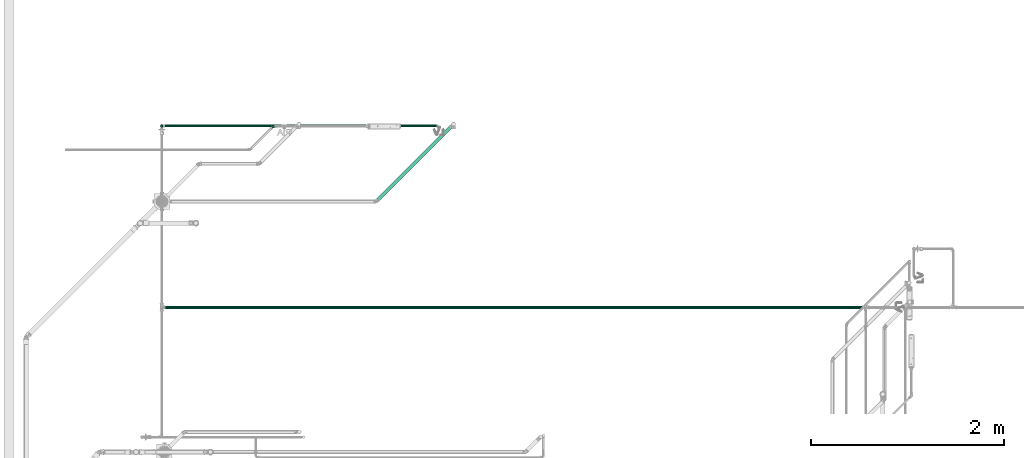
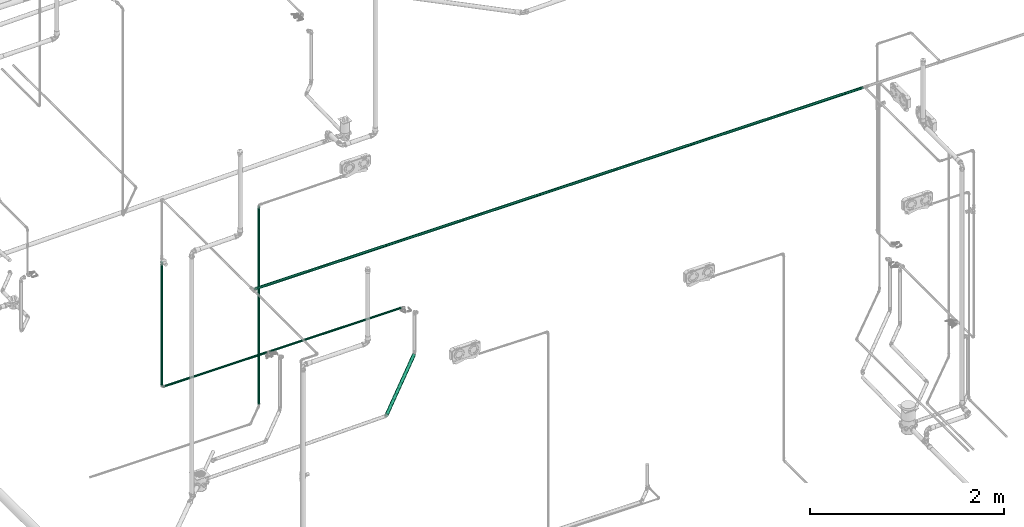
# One storey, part 6 of 589: 6 flow segments.
"""IFC2X3 building model written with IfcOpenShell, lengths in millimetres."""

from ifc_helpers import new_model, entity, si_unit, converted_unit, derived_unit, direction, frame, frame_2d, origin, origin_2d_with_axis, place, context, subcontext, project, spatial, circle, extrude, type_object, element, save


model = new_model("IFC2X3")

# Units and contexts
model_context = context("Model", 3, precision=0.01, world=origin(), true_north=direction((6.123031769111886e-17, 1.0)))
body_context = subcontext(model_context, "Body", "Model", "MODEL_VIEW")
ifc_project = project(units=[si_unit("LENGTHUNIT", "METRE", prefix="MILLI"), si_unit("AREAUNIT", "SQUARE_METRE"), si_unit("VOLUMEUNIT", "CUBIC_METRE"), converted_unit("PLANEANGLEUNIT", "DEGREE", entity("IfcRatioMeasure", 0.017453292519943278), si_unit("PLANEANGLEUNIT", "RADIAN"), dimensions=[0, 0, 0, 0, 0, 0, 0]), si_unit("MASSUNIT", "GRAM", prefix="KILO"), derived_unit("MASSDENSITYUNIT", [(si_unit("MASSUNIT", "GRAM", prefix="KILO"), 1), (si_unit("LENGTHUNIT", "METRE"), -3)]), derived_unit("IONCONCENTRATIONUNIT", [(si_unit("MASSUNIT", "GRAM", prefix="KILO"), 1), (si_unit("LENGTHUNIT", "METRE"), -3)]), derived_unit("MOMENTOFINERTIAUNIT", [(si_unit("LENGTHUNIT", "METRE"), 4)]), si_unit("TIMEUNIT", "SECOND"), si_unit("FREQUENCYUNIT", "HERTZ"), si_unit("THERMODYNAMICTEMPERATUREUNIT", "DEGREE_CELSIUS"), derived_unit("THERMALTRANSMITTANCEUNIT", [(si_unit("MASSUNIT", "GRAM", prefix="KILO"), 1), (si_unit("THERMODYNAMICTEMPERATUREUNIT", "KELVIN"), -1), (si_unit("TIMEUNIT", "SECOND"), -3)]), derived_unit("THERMALCONDUCTANCEUNIT", [(si_unit("MASSUNIT", "GRAM", prefix="KILO"), 1), (si_unit("THERMODYNAMICTEMPERATUREUNIT", "KELVIN"), -1), (si_unit("TIMEUNIT", "SECOND"), -3), (si_unit("LENGTHUNIT", "METRE"), 1)]), derived_unit("VOLUMETRICFLOWRATEUNIT", [(si_unit("LENGTHUNIT", "METRE"), 3), (si_unit("TIMEUNIT", "SECOND"), -1)]), derived_unit("MASSFLOWRATEUNIT", [(si_unit("MASSUNIT", "GRAM", prefix="KILO"), 1), (si_unit("TIMEUNIT", "SECOND"), -1)]), derived_unit("ROTATIONALFREQUENCYUNIT", [(si_unit("TIMEUNIT", "SECOND"), -1)]), si_unit("ELECTRICCURRENTUNIT", "AMPERE"), si_unit("ELECTRICVOLTAGEUNIT", "VOLT"), si_unit("POWERUNIT", "WATT"), si_unit("FORCEUNIT", "NEWTON", prefix="KILO"), si_unit("ILLUMINANCEUNIT", "LUX"), si_unit("LUMINOUSFLUXUNIT", "LUMEN"), si_unit("LUMINOUSINTENSITYUNIT", "CANDELA"), derived_unit("USERDEFINED", [(si_unit("MASSUNIT", "GRAM", prefix="KILO"), -1), (si_unit("LENGTHUNIT", "METRE"), -2), (si_unit("TIMEUNIT", "SECOND"), 3), (si_unit("LUMINOUSFLUXUNIT", "LUMEN"), 1)]), derived_unit("USERDEFINED", [(si_unit("MASSUNIT", "GRAM", prefix="KILO"), 1), (si_unit("TIMEUNIT", "SECOND"), -3), (si_unit("LENGTHUNIT", "METRE"), 3), (si_unit("ELECTRICCURRENTUNIT", "AMPERE"), -2)]), derived_unit("SOUNDPOWERUNIT", [(si_unit("MASSUNIT", "GRAM", prefix="KILO"), 1), (si_unit("TIMEUNIT", "SECOND"), -3), (si_unit("LENGTHUNIT", "METRE"), 2)]), derived_unit("SOUNDPRESSUREUNIT", [(si_unit("MASSUNIT", "GRAM", prefix="KILO"), 1), (si_unit("LENGTHUNIT", "METRE"), -1), (si_unit("TIMEUNIT", "SECOND"), -2)]), derived_unit("LINEARVELOCITYUNIT", [(si_unit("LENGTHUNIT", "METRE"), 1), (si_unit("TIMEUNIT", "SECOND"), -1)]), si_unit("PRESSUREUNIT", "PASCAL"), derived_unit("USERDEFINED", [(si_unit("MASSUNIT", "GRAM", prefix="KILO"), 1), (si_unit("LENGTHUNIT", "METRE"), -2), (si_unit("TIMEUNIT", "SECOND"), -2)]), derived_unit("LINEARFORCEUNIT", [(si_unit("MASSUNIT", "GRAM", prefix="KILO"), 1), (si_unit("TIMEUNIT", "SECOND"), -2)]), derived_unit("PLANARFORCEUNIT", [(si_unit("MASSUNIT", "GRAM", prefix="KILO"), 1), (si_unit("LENGTHUNIT", "METRE"), -1), (si_unit("TIMEUNIT", "SECOND"), -2)]), derived_unit("SPECIFICHEATCAPACITYUNIT", [(si_unit("THERMODYNAMICTEMPERATUREUNIT", "KELVIN"), -1), (si_unit("LENGTHUNIT", "METRE"), 2), (si_unit("TIMEUNIT", "SECOND"), -2)]), derived_unit("HEATINGVALUEUNIT", [(si_unit("LENGTHUNIT", "METRE"), 2), (si_unit("TIMEUNIT", "SECOND"), -2)]), derived_unit("VAPORPERMEABILITYUNIT", [(si_unit("LENGTHUNIT", "METRE"), -1), (si_unit("TIMEUNIT", "SECOND"), 1)]), derived_unit("DYNAMICVISCOSITYUNIT", [(si_unit("MASSUNIT", "GRAM", prefix="KILO"), 1), (si_unit("TIMEUNIT", "SECOND"), -1), (si_unit("LENGTHUNIT", "METRE"), -1)]), derived_unit("THERMALEXPANSIONCOEFFICIENTUNIT", [(si_unit("THERMODYNAMICTEMPERATUREUNIT", "KELVIN"), -1)]), derived_unit("MODULUSOFELASTICITYUNIT", [(si_unit("MASSUNIT", "GRAM", prefix="KILO"), 1), (si_unit("LENGTHUNIT", "METRE"), -1), (si_unit("TIMEUNIT", "SECOND"), -2)]), derived_unit("ISOTHERMALMOISTURECAPACITYUNIT", [(si_unit("LENGTHUNIT", "METRE"), 3), (si_unit("MASSUNIT", "GRAM", prefix="KILO"), -1)]), derived_unit("MOISTUREDIFFUSIVITYUNIT", [(si_unit("TIMEUNIT", "SECOND"), -1), (si_unit("LENGTHUNIT", "METRE"), 2)])], contexts=[model_context])

# Site, building, storey
site_placement = place(None, origin())
site = spatial("IfcSite", under=ifc_project, at=site_placement, Name="Default", CompositionType="ELEMENT")
building_placement = place(site_placement, origin())
building = spatial("IfcBuilding", under=site, at=building_placement, CompositionType="ELEMENT")
storey_placement = place(building_placement, frame((0.0, 0.0, 100.0)))
storey = spatial("IfcBuildingStorey", under=building, at=storey_placement, Name="TÉRREO", CompositionType="ELEMENT", Elevation=100.0)

# Flow segments
pipe_segment_type_1 = type_object("IfcPipeSegmentType", Name="Tipos de tubos:PVC Esgoto Série Normal", PredefinedType="NOTDEFINED")
flow_segment_1_placement = place(storey_placement, origin())
element("IfcFlowSegment", 1, at=flow_segment_1_placement, inside=storey, type_object=pipe_segment_type_1, Name="Tipos de tubos:PVC Esgoto Série Normal", ObjectType="Tipos de tubos:PVC Esgoto Série Normal", context=body_context, shape_type="SweptSolid", body=[
    extrude(circle(Radius=20.0, at=frame_2d((7.656261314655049e-13, -4.4867841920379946e-14), x_axis=(1.0, 0.0))), frame((-5130.256177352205, -5096.200137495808, -66.8634224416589), z_axis=(0.7068956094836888, 0.7070369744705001, 0.01993273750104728), x_axis=(-0.7071774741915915, 0.7070360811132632, 0.0)), (0.0, 0.0, 1.0), 1087.877473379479),
])
pipe_segment_type_2 = type_object("IfcPipeSegmentType", Name="Tipos de tubos:PVC Marrom Soldável", PredefinedType="NOTDEFINED")
flow_segment_2_placement = place(storey_placement, origin())
element("IfcFlowSegment", 2, at=flow_segment_2_placement, inside=storey, type_object=pipe_segment_type_2, Name="Tipos de tubos:PVC Marrom Soldável", ObjectType="Tipos de tubos:PVC Marrom Soldável", context=body_context, shape_type="SweptSolid", body=[
    extrude(circle(Radius=12.5, at=frame_2d((0.0, -1.353583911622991e-13), x_axis=(1.0, 0.0))), frame((-6079.905500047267, -4322.125782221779, 600.0), z_axis=(1.0, 0.0, 0.0), x_axis=(0.0, -1.0, 0.0)), (0.0, 0.0, 1.0), 1575.6136902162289),
])
flow_segment_3_placement = place(storey_placement, origin())
element("IfcFlowSegment", 3, at=flow_segment_3_placement, inside=storey, type_object=pipe_segment_type_2, Name="Tipos de tubos:PVC Marrom Soldável", ObjectType="Tipos de tubos:PVC Marrom Soldável", context=body_context, shape_type="SweptSolid", body=[
    extrude(circle(Radius=12.5, at=frame_2d((0.0, -1.353583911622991e-13), x_axis=(1.0, 0.0))), frame((-7346.872959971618, -4322.125782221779, 600.0), z_axis=(1.0, 0.0, 0.0), x_axis=(0.0, -1.0, 0.0)), (0.0, 0.0, 1.0), 1240.1674599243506),
])
flow_segment_4_placement = place(storey_placement, origin())
element("IfcFlowSegment", 4, at=flow_segment_4_placement, inside=storey, type_object=pipe_segment_type_2, Name="Tipos de tubos:PVC Marrom Soldável", ObjectType="Tipos de tubos:PVC Marrom Soldável", context=body_context, shape_type="SweptSolid", body=[
    extrude(circle(Radius=12.5, at=origin_2d_with_axis()), frame((-7362.272959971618, -4322.12578222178, 615.4000000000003), z_axis=(0.0, 0.0, 1.0), x_axis=(-1.0, 0.0, 0.0)), (0.0, 0.0, 1.0), 1564.5999999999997),
])
flow_segment_5_placement = place(storey_placement, origin())
element("IfcFlowSegment", 5, at=flow_segment_5_placement, inside=storey, type_object=pipe_segment_type_2, Name="Tipos de tubos:PVC Marrom Soldável", ObjectType="Tipos de tubos:PVC Marrom Soldável", context=body_context, shape_type="SweptSolid", body=[
    extrude(circle(Radius=16.0, at=origin_2d_with_axis()), frame((-7344.032959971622, -6202.62578222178, 2970.0), z_axis=(1.0, 0.0, 0.0), x_axis=(0.0, -1.0, 0.0)), (0.0, 0.0, 1.0), 7252.891827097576),
])
flow_segment_6_placement = place(storey_placement, origin())
element("IfcFlowSegment", 6, at=flow_segment_6_placement, inside=storey, type_object=pipe_segment_type_2, Name="Tipos de tubos:PVC Marrom Soldável", ObjectType="Tipos de tubos:PVC Marrom Soldável", context=body_context, shape_type="SweptSolid", body=[
    extrude(circle(Radius=12.5, at=origin_2d_with_axis()), frame((-6208.090410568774, -4327.625778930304, -20.752184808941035)), (0.0, 0.0, 1.0), 2501.0425828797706),
])

save(model, "model.ifc")
